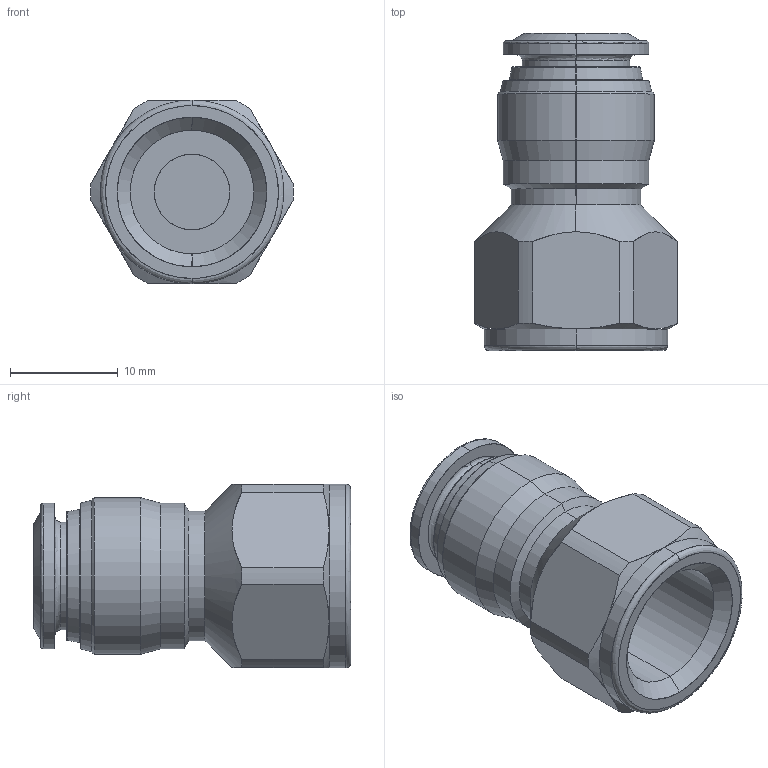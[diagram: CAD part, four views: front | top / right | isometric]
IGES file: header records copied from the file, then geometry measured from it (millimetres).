
Start section: SolidWorks IGES file using analytic representation for surfaces
Global section: file name: K:\Disegni Esecutivi\Serie 57000\ASSIEMI_57000\57030\ASSIEMI_PIENI_57030\5703000005.IGS; native system: SolidWorks 2007; preprocessor: SolidWorks 2007; author: cad02; date: 080201.143430; units: millimetre
Bounding box: 18.79 x 29.4 x 17 mm (x, y, z)
Surface area: 2512.6 mm2 (no closed solid volume)
Topology: 0 solids, 0 shells, 83 faces, 1026 edges, 1026 vertices
Faces by surface type: revolution 52, bspline 31
